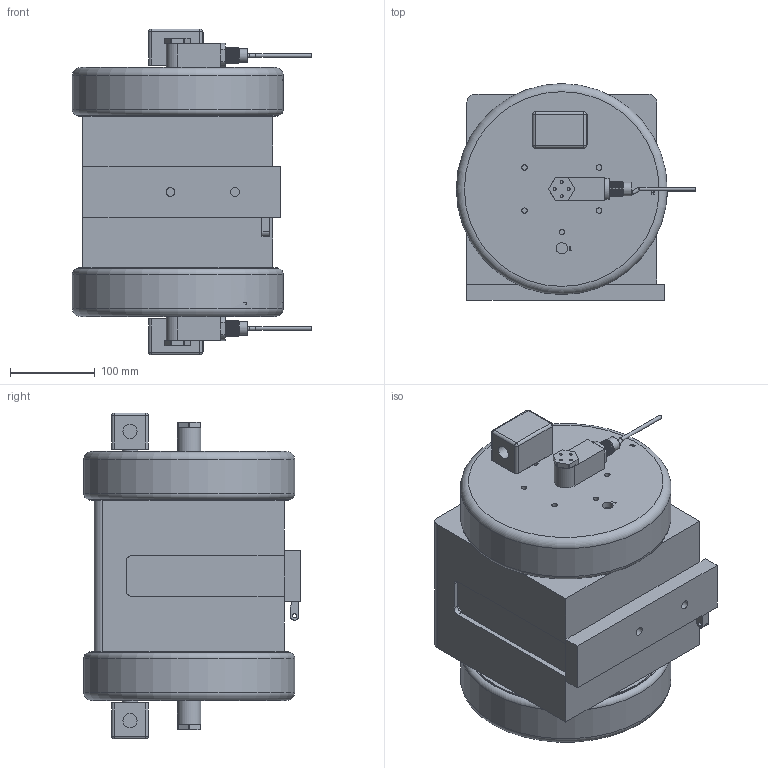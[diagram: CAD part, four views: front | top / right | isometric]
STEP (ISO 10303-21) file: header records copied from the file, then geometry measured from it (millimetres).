
FILE_DESCRIPTION (( 'STEP AP214' ), '1' );
FILE_NAME ('PXU140_solid model.STEP', '2013-07-25T14:31:07', ( '' ), ( '' ), 'SwSTEP 2.0', 'SolidWorks 2012', '' );
FILE_SCHEMA (( 'AUTOMOTIVE_DESIGN' ));
Length unit declared in the file: inch
Products named in the file (1): PXU140_solid model
Bounding box: 282.45 x 255.52 x 384.49 mm (x, y, z)
Volume: 14865024.5 mm3; surface area: 457037.9 mm2
Topology: 1 solids, 1 shells, 1190 faces, 2952 edges, 1915 vertices
Faces by surface type: plane 833, cylinder 148, bspline 102, cone 89, torus 10, sphere 8
Full cylindrical faces by diameter (mm): 3.175 x4, 3.251 x32, 3.264 x4, 4.445 x7, 4.902 x1, 6.477 x12, 10.312 x2, 12.725 x1, 13.183 x1, 16.408 x2, 16.716 x2, 18.25 x2, 22.25 x2, 31.877 x1, 33.401 x1, 35.35 x2, 38.786 x2, 61.138 x1, 234.29 x2, 248.92 x2
Entity records: 40481 total; most frequent: CARTESIAN_POINT 11696, ORIENTED_EDGE 5522, DIRECTION 5185, EDGE_CURVE 2761, VECTOR 2095, LINE 2095, VERTEX_POINT 1900, AXIS2_PLACEMENT_3D 1545
